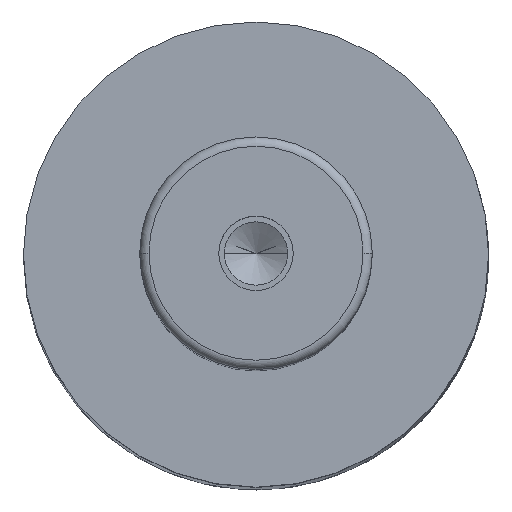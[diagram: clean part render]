
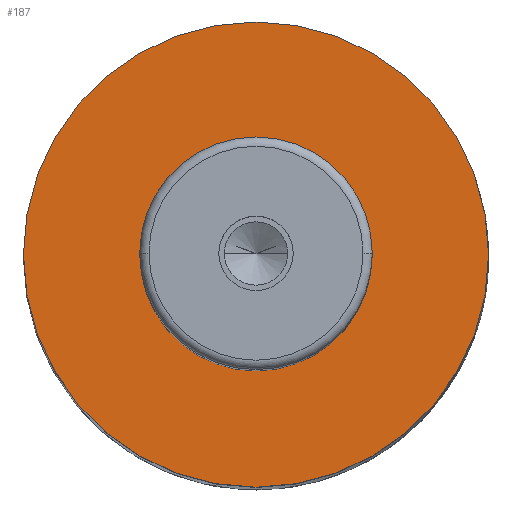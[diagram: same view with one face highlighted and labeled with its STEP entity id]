
A CAD part, top view. The second image highlights one B-rep face of the part: STEP entity #187.
In plain terms, the highlighted planar face has unit normal (0, 0, 1).
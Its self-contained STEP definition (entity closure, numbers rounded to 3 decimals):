
#109=PLANE('',#1002);
#132=FACE_BOUND('',#299,.T.);
#133=FACE_BOUND('',#300,.T.);
#187=ADVANCED_FACE('',(#132,#133),#109,.T.);
#299=EDGE_LOOP('',(#463,#464));
#300=EDGE_LOOP('',(#465,#466));
#367=CIRCLE('',#996,12.5);
#368=CIRCLE('',#998,12.5);
#369=CIRCLE('',#1000,25.);
#370=CIRCLE('',#1001,25.);
#463=ORIENTED_EDGE('',*,*,#766,.F.);
#464=ORIENTED_EDGE('',*,*,#767,.F.);
#465=ORIENTED_EDGE('',*,*,#765,.T.);
#466=ORIENTED_EDGE('',*,*,#763,.T.);
#676=VERTEX_POINT('',#1435);
#677=VERTEX_POINT('',#1437);
#678=VERTEX_POINT('',#1443);
#679=VERTEX_POINT('',#1444);
#763=EDGE_CURVE('',#677,#676,#367,.T.);
#765=EDGE_CURVE('',#676,#677,#368,.T.);
#766=EDGE_CURVE('',#678,#679,#369,.T.);
#767=EDGE_CURVE('',#679,#678,#370,.T.);
#996=AXIS2_PLACEMENT_3D('',#1436,#1150,#1151);
#998=AXIS2_PLACEMENT_3D('',#1440,#1155,#1156);
#1000=AXIS2_PLACEMENT_3D('',#1442,#1159,#1160);
#1001=AXIS2_PLACEMENT_3D('',#1445,#1161,#1162);
#1002=AXIS2_PLACEMENT_3D('',#1446,#1163,#1164);
#1150=DIRECTION('',(0.,0.,-1.));
#1151=DIRECTION('',(0.,1.,0.));
#1155=DIRECTION('',(0.,0.,-1.));
#1156=DIRECTION('',(0.,-1.,0.));
#1159=DIRECTION('',(0.,0.,-1.));
#1160=DIRECTION('',(0.,1.,0.));
#1161=DIRECTION('',(0.,0.,-1.));
#1162=DIRECTION('',(0.,-1.,0.));
#1163=DIRECTION('',(0.,0.,1.));
#1164=DIRECTION('',(0.,-1.,0.));
#1435=CARTESIAN_POINT('',(-12.5,0.,172.));
#1436=CARTESIAN_POINT('',(0.,0.,172.));
#1437=CARTESIAN_POINT('',(12.5,0.,172.));
#1440=CARTESIAN_POINT('',(0.,0.,172.));
#1442=CARTESIAN_POINT('',(0.,0.,172.));
#1443=CARTESIAN_POINT('',(25.,0.,172.));
#1444=CARTESIAN_POINT('',(-25.,0.,172.));
#1445=CARTESIAN_POINT('',(0.,0.,172.));
#1446=CARTESIAN_POINT('',(0.,0.,172.));
